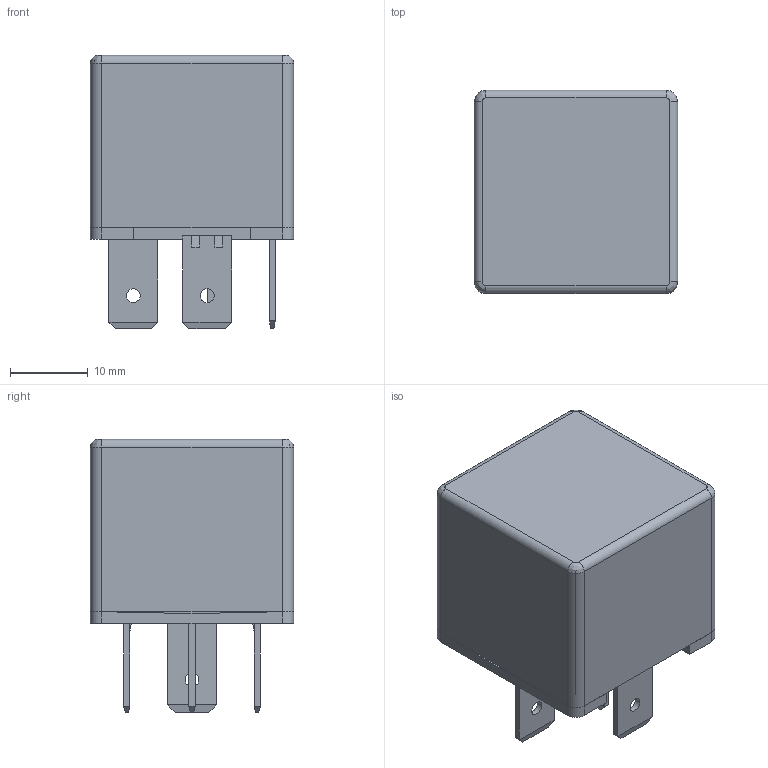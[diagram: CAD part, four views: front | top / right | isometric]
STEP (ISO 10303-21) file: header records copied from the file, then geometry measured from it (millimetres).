
FILE_DESCRIPTION(('FreeCAD Model'),'2;1');
FILE_NAME('C:/Users/Jane Koetz/Desktop/SB.step','2020-05-17T11:20:53',( 'VKV'),('Metaltex'),'Open CASCADE STEP processor 7.3','FreeCAD', 'Unknown');
FILE_SCHEMA(('AUTOMOTIVE_DESIGN { 1 0 10303 214 1 1 1 1 }'));
Length unit declared in the file: millimetre
Products named in the file (1): SB
Bounding box: 26.2 x 26.2 x 35.2 mm (x, y, z)
Volume: 3874.5 mm3; surface area: 9182.3 mm2
Topology: 11 solids, 11 shells, 464 faces, 3555 edges, 10219 vertices
Faces by surface type: plane 401, cylinder 54, cone 4, bspline 4, extrusion 1
Full cylindrical faces by diameter (mm): 1.8 x5
Entity records: 44658 total; most frequent: CARTESIAN_POINT 14334, DIRECTION 4817, VECTOR 3187, LINE 3186, GEOMETRIC_CURVE_SET 2371, ORIENTED_EDGE 2370, TRIMMED_CURVE 2370, EDGE_CURVE 1185
